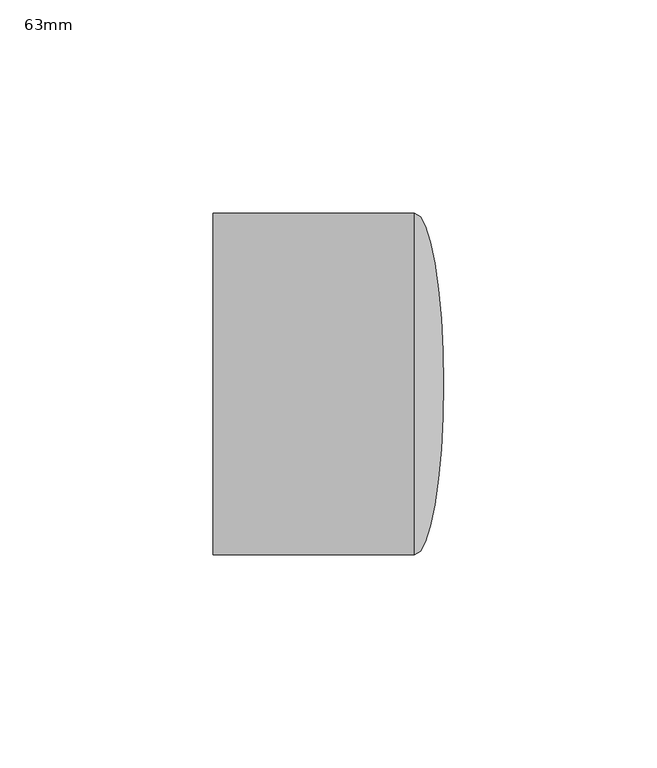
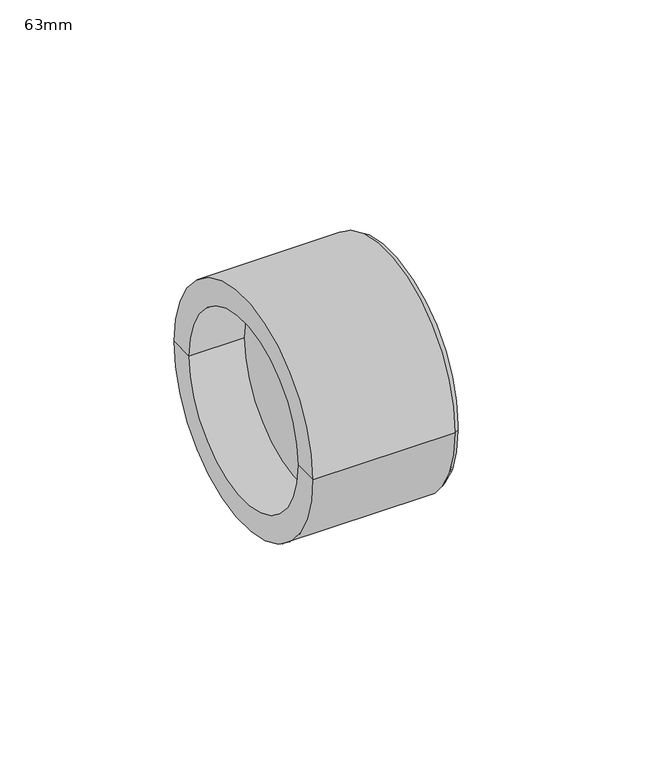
"""IFC4 building model written with IfcOpenShell, lengths in millimetres: pipe fitting geometry, PipeFitting_HTA_CPVC_Caps : 63mm."""

from ifc_helpers import new_model, si_unit, point, frame, origin, place, context, project, spatial, polyline, circle_curve, ellipse_curve, trimmed, source, transform, mapped, element, save
from ifc_brep_helpers import plane_surface, cylinder_surface, revolved_surface, advanced_brep


def pipe_fitting_63mm_63c9e68c(model_context):
    return source(origin(), model_context, "Body", "AdvancedBrep", [
        advanced_brep(
        [(20.25, -40.0, 0.0), (20.25, 40.0, 0.0), (27.0, 0.0, 0.0), (-27.0, -40.0, 0.0), (-27.0, 40.0, 0.0), (-27.0, -31.5, 0.0), (-27.0, 31.5, 0.0), (-8.4296875, -31.5, 0.0), (-8.4296875, 31.5, 0.0)],
        [
            (0, 1, circle_curve(frame((20.25, 0.0, 0.0), z_axis=(1.0, 0.0, 0.0), x_axis=(0.0, 1.0, 0.0)), 40.0)),
            (1, 2, ellipse_curve(frame((20.25, 0.0, 0.0), z_axis=(0.0, 0.0, -1.0), x_axis=(0.0, 1.0, 0.0)), 40.0, 6.75)),
            (2, 0, ellipse_curve(frame((20.25, 0.0, 0.0), z_axis=(0.0, 0.0, -1.0), x_axis=(0.0, -1.0, 0.0)), 40.0, 6.75)),
            (1, 0, circle_curve(frame((20.25, 0.0, 0.0), z_axis=(1.0, 0.0, 0.0), x_axis=(0.0, 1.0, 0.0)), 40.0)),
            (0, 3),
            (3, 4, circle_curve(frame((-27.0, 0.0, 0.0), z_axis=(1.0, 0.0, 0.0), x_axis=(0.0, 1.0, 0.0)), 40.0)),
            (4, 1),
            (4, 3, circle_curve(frame((-27.0, 0.0, 0.0), z_axis=(1.0, 0.0, 0.0), x_axis=(0.0, 1.0, 0.0)), 40.0)),
            (3, 5),
            (5, 6, circle_curve(frame((-27.0, 0.0, 0.0), z_axis=(1.0, 0.0, 0.0), x_axis=(0.0, 1.0, 0.0)), 31.5)),
            (6, 4),
            (6, 5, circle_curve(frame((-27.0, 0.0, 0.0), z_axis=(1.0, 0.0, 0.0), x_axis=(0.0, 1.0, 0.0)), 31.5)),
            (7, 8, circle_curve(frame((-8.4296875, 0.0, 0.0), z_axis=(-1.0, 0.0, 0.0), x_axis=(0.0, 1.0, 0.0)), 31.5)),
            (8, 7, circle_curve(frame((-8.4296875, 0.0, 0.0), z_axis=(-1.0, 0.0, 0.0), x_axis=(0.0, 1.0, 0.0)), 31.5)),
            (8, 6),
            (5, 7),
        ],
        [
            revolved_surface(trimmed(ellipse_curve(frame((20.25, 0.0, 0.0), z_axis=(0.0, 0.0, 1.0), x_axis=(0.0, 1.0, 0.0)), 40.0, 6.75), [point((27.0, 0.0, 0.0))], [point((20.25, 40.0, 0.0))], True, "CARTESIAN"), (-380.0, 0.0, 0.0), (-1.0, 0.0, 0.0)),
            cylinder_surface(frame((-380.0, 0.0, 0.0), z_axis=(-1.0, 0.0, 0.0), x_axis=(0.0, 1.0, 0.0)), 40.0),
            plane_surface(frame((-27.0, 0.0, 0.0), z_axis=(-1.0, 0.0, 0.0), x_axis=(0.0, 1.0, 0.0))),
            plane_surface(frame((-8.4296875, 31.5, 0.0), z_axis=(-1.0, 0.0, 0.0), x_axis=(0.0, 0.0, 1.0))),
            revolved_surface(polyline([(-8.4296875, 31.5, 0.0), (-27.0, 31.5, 0.0)]), (-27.0, 0.0, 0.0), (1.0, 0.0, 0.0)),
        ],
        [
            (0, [[1, 2, 3]]),
            (0, [[-2, 4, -3]]),
            (1, [[-1, 5, 6, 7]]),
            (1, [[-4, -7, 8, -5]]),
            (2, [[-6, 9, 10, 11]]),
            (2, [[-8, -11, 12, -9]]),
            (3, [[13, 14]]),
            (4, [[-14, 15, -10, 16]]),
            (4, [[-13, -16, -12, -15]]),
        ],
    ),
    ])


if __name__ == "__main__":
    model = new_model("IFC4")
    model_context = context("Model", 3, world=origin())
    ifc_project = project(units=[si_unit("LENGTHUNIT", "METRE", prefix="MILLI")], contexts=[model_context])
    site = spatial("IfcSite", under=ifc_project)
    building = spatial("IfcBuilding", under=site)
    placement = place(None, origin())
    pipe_fitting_63mm_shape = pipe_fitting_63mm_63c9e68c(model_context)
    element("IfcPipeFitting", 1, ObjectType="PipeFitting_HTA_CPVC_Caps : 63mm", at=placement, inside=building, context=model_context, shape_type="MappedRepresentation", body=[
        mapped(pipe_fitting_63mm_shape, transform((0.0, 0.0, 0.0), x_axis=(1.0, 0.0, 0.0), y_axis=(0.0, 1.0, 0.0), z_axis=(0.0, 0.0, 1.0))),
    ])
    save(model, "model.ifc")
